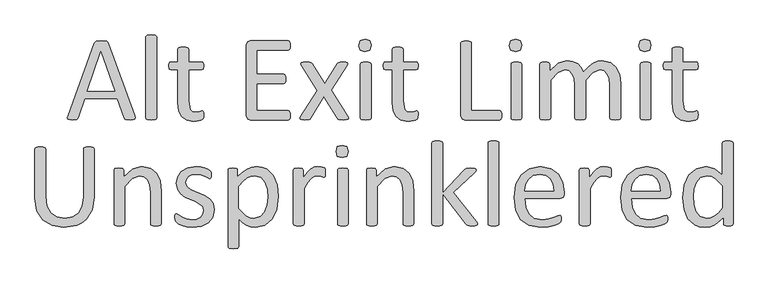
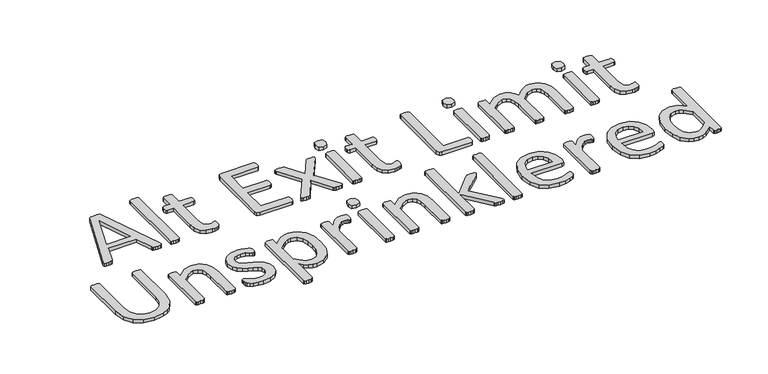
"""IFC4 building model written with IfcOpenShell, lengths in millimetres: proxy geometry, Marker-Alt Exit Limit Unsprinklered : Alt Exit Limit Unsprinklered Line."""

import ifcopenshell
import ifcopenshell.guid

model = None  # the IFC model being written
_history = None  # IfcOwnerHistory: only IFC2X3 demands one
_inside = {}  # id of a spatial element -> (the spatial element, [elements in it])
_under = {}  # id of a project, library or spatial element -> (it, [spatial elements below it])
_declared = {}  # id of a project -> (the project, [libraries it declares])
_typed = {}  # id of a type object -> (the type object, [elements of that type])
_made_of = {}  # id of a material, layer set ... -> (it, [elements and type objects made of it])


def new_model(schema):
    """Start an empty IFC model of exactly this schema.

    Asked for "IFC4X3", IfcOpenShell would pick the latest addendum, in which some entities
    have other attributes; the version numbers below select the first issue.
    IFC2X3 requires an IfcOwnerHistory on every rooted entity: one is made here for all.
    """
    global model, _history
    if schema == "IFC4X3":
        model = ifcopenshell.file(schema_version=(4, 3, 0, 0))
    else:
        model = ifcopenshell.file(schema=schema)
    _inside.clear()
    _under.clear()
    _declared.clear()
    _typed.clear()
    _made_of.clear()
    _history = None
    if model.schema == "IFC2X3":
        org = make("IfcOrganization", Name="unknown")
        user = make(
            "IfcPersonAndOrganization",
            ThePerson=make("IfcPerson", FamilyName="unknown"),
            TheOrganization=org,
        )
        app = make(
            "IfcApplication",
            ApplicationDeveloper=org,
            Version="unknown",
            ApplicationFullName="unknown",
            ApplicationIdentifier="unknown",
        )
        _history = make(
            "IfcOwnerHistory",
            OwningUser=user,
            OwningApplication=app,
            ChangeAction="ADDED",
            CreationDate=0,
        )
    return model


def make(cls, **values):
    """One entity of the class cls with the attributes given. An attribute that is None is left unset."""
    return model.create_entity(
        cls, **{name: value for name, value in values.items() if value is not None}
    )


def rooted(cls, **values):
    """An entity with a GlobalId (a new one), such as an element, a storey or a relation."""
    return make(cls, GlobalId=ifcopenshell.guid.new(), OwnerHistory=_history, **values)


def si_unit(unit_type, name, prefix=None):
    """IfcSIUnit, for example si_unit("LENGTHUNIT", "METRE", prefix="MILLI")."""
    return make("IfcSIUnit", UnitType=unit_type, Prefix=prefix, Name=name)


def assignment(units):
    """IfcUnitAssignment: the units of a project."""
    return None if units is None else make("IfcUnitAssignment", Units=units)


def point(xyz):
    """IfcCartesianPoint."""
    return None if xyz is None else make("IfcCartesianPoint", Coordinates=xyz)


def direction(xyz):
    """IfcDirection."""
    return None if xyz is None else make("IfcDirection", DirectionRatios=xyz)


def frame(location, z_axis=None, x_axis=None):
    """IfcAxis2Placement3D, a coordinate frame: its origin and axes. An axis left out is left unset."""
    return make(
        "IfcAxis2Placement3D",
        Location=point(location),
        Axis=direction(z_axis),
        RefDirection=direction(x_axis),
    )


def origin():
    """The frame at (0, 0, 0) with its axes left unset."""
    return frame((0.0, 0.0, 0.0))


def origin_with_axes():
    """The frame at (0, 0, 0) with the z axis (0, 0, 1) and the x axis (1, 0, 0) written out."""
    return frame((0.0, 0.0, 0.0), z_axis=(0.0, 0.0, 1.0), x_axis=(1.0, 0.0, 0.0))


def place(relative_to, where):
    """IfcLocalPlacement: puts the frame where relative to a parent placement (None: the world)."""
    return make(
        "IfcLocalPlacement", PlacementRelTo=relative_to, RelativePlacement=where
    )


def context(
    kind, dimensions, precision=None, world=None, true_north=None, identifier=None
):
    """IfcGeometricRepresentationContext, for example the 3D "Model" context."""
    return make(
        "IfcGeometricRepresentationContext",
        ContextIdentifier=identifier,
        ContextType=kind,
        CoordinateSpaceDimension=dimensions,
        Precision=precision,
        WorldCoordinateSystem=world,
        TrueNorth=true_north,
    )


def project(units=None, contexts=None):
    """IfcProject with its units and contexts."""
    return rooted(
        "IfcProject",
        Name="project",
        RepresentationContexts=contexts,
        UnitsInContext=assignment(units),
    )


def spatial(cls, under=None, at=None, **own):
    """A site, building, storey or space (cls), placed at a placement, below another one or the project."""
    s = rooted(cls, ObjectPlacement=at, **own)
    if under is not None:
        _under.setdefault(under.id(), (under, []))[1].append(s)
    return s


def polyline(points):
    """IfcPolyline through the points."""
    return make("IfcPolyline", Points=[point(p) for p in points])


def outline(outer, holes=None, kind="AREA"):
    """IfcArbitraryClosedProfileDef: a profile drawn as a closed curve; with holes, ...WithVoids."""
    if holes is None:
        return make("IfcArbitraryClosedProfileDef", ProfileType=kind, OuterCurve=outer)
    return make(
        "IfcArbitraryProfileDefWithVoids",
        ProfileType=kind,
        OuterCurve=outer,
        InnerCurves=holes,
    )


def extrude(swept, where, along, depth):
    """IfcExtrudedAreaSolid: the profile swept, set in the frame where, extruded along a direction by depth."""
    return make(
        "IfcExtrudedAreaSolid",
        SweptArea=swept,
        Position=where,
        ExtrudedDirection=direction(along),
        Depth=depth,
    )


def shape(context_of_items, identifier, shape_type, items):
    """IfcShapeRepresentation: the items that make up one representation, for example the "Body"."""
    return make(
        "IfcShapeRepresentation",
        ContextOfItems=context_of_items,
        RepresentationIdentifier=identifier,
        RepresentationType=shape_type,
        Items=items,
    )


def source(mapping_origin, context_of_items, identifier, shape_type, items):
    """IfcRepresentationMap: a shape defined once, which mapped items show again and again."""
    return make(
        "IfcRepresentationMap",
        MappingOrigin=mapping_origin,
        MappedRepresentation=shape(context_of_items, identifier, shape_type, items),
    )


def transform(
    local_origin,
    x_axis=None,
    y_axis=None,
    z_axis=None,
    scale=None,
    scale2=None,
    scale3=None,
    uniform=True,
):
    """IfcCartesianTransformationOperator3D, or its non-uniform kind. x_axis, y_axis, z_axis: its Axis1, 2, 3."""
    if uniform:
        return make(
            "IfcCartesianTransformationOperator3D",
            Axis1=direction(x_axis),
            Axis2=direction(y_axis),
            LocalOrigin=point(local_origin),
            Scale=scale,
            Axis3=direction(z_axis),
        )
    return make(
        "IfcCartesianTransformationOperator3DnonUniform",
        Axis1=direction(x_axis),
        Axis2=direction(y_axis),
        LocalOrigin=point(local_origin),
        Scale=scale,
        Axis3=direction(z_axis),
        Scale2=scale2,
        Scale3=scale3,
    )


def mapped(mapping_source, mapping_target):
    """IfcMappedItem: shows the shape of a source again, moved by a transform."""
    return make(
        "IfcMappedItem", MappingSource=mapping_source, MappingTarget=mapping_target
    )


def made_of(thing, what):
    """Note that an element or type object is made of a material, layer set ...; save() writes the relation."""
    if what is not None:
        _made_of.setdefault(what.id(), (what, []))[1].append(thing)
    return thing


def element(
    cls,
    number,
    at=None,
    inside=None,
    cuts=None,
    type_object=None,
    material=None,
    context=None,
    identifier="Body",
    shape_type=None,
    held_by="IfcProductDefinitionShape",
    body=None,
    shapes=None,
    **own,
):
    """One element of the class cls, such as IfcWall. Its Tag is "e" and its number.

    at: its placement. inside: the storey or other place that contains it. cuts: it is an
    opening in that element (IfcRelVoidsElement). A single representation is given by context,
    identifier, shape_type and body (its items); several are given by shapes. held_by: the class
    of the entity that holds the representations. save() writes the other relations.
    """
    e = rooted(cls, Tag="e%d" % number, ObjectPlacement=at, **own)
    if body is not None:
        shapes = [shape(context, identifier, shape_type, body)]
    if shapes is not None:
        e.Representation = make(held_by, Representations=shapes)
    if inside is not None:
        _inside.setdefault(inside.id(), (inside, []))[1].append(e)
    if cuts is not None:
        rooted(
            "IfcRelVoidsElement", RelatingBuildingElement=cuts, RelatedOpeningElement=e
        )
    if type_object is not None:
        _typed.setdefault(type_object.id(), (type_object, []))[1].append(e)
    return made_of(e, material)


def aggregate(whole, parts):
    """IfcRelAggregates: a whole, such as a stair, and the parts it consists of."""
    return rooted("IfcRelAggregates", RelatingObject=whole, RelatedObjects=parts)


def save(model, path):
    """Write the relations noted so far, then the file.

    IfcRelAggregates (storeys below a building ...), IfcRelContainedInSpatialStructure (elements
    in a storey), IfcRelDefinesByType, IfcRelAssociatesMaterial and IfcRelDeclares: one each for
    every whole, place, type object, material and project.
    """
    for whole, parts in _under.values():
        aggregate(whole, parts)
    for where, things in _inside.values():
        rooted(
            "IfcRelContainedInSpatialStructure",
            RelatedElements=things,
            RelatingStructure=where,
        )
    for kind, things in _typed.values():
        rooted("IfcRelDefinesByType", RelatedObjects=things, RelatingType=kind)
    for what, things in _made_of.values():
        rooted("IfcRelAssociatesMaterial", RelatedObjects=things, RelatingMaterial=what)
    for by, libraries in _declared.values():
        rooted("IfcRelDeclares", RelatingContext=by, RelatedDefinitions=libraries)
    model.write(path)


def generic_models_76fe117e(model_context):
    return source(origin(), model_context, "Body", "SweptSolid", [
        extrude(outline(polyline([(3919.5878214, 45.1759206), (3920.8845935, 39.6872573), (3919.7386089, 36.4604059), (3915.6371902, 35.0430038), (3908.0073451, 34.7414289), (3900.3171851, 34.9826888), (3896.004664, 35.7667836), (3893.8634821, 37.2445006), (3892.5063951, 39.5666274), (3875.3769405, 88.7836516), (3792.2025821, 88.7836516), (3775.8572223, 40.2300921), (3774.5906077, 37.8174929), (3772.3589535, 36.0683585), (3768.1972198, 35.0430038), (3761.140367, 34.7414289), (3753.8120969, 35.1334763), (3749.8011507, 36.6111933), (3748.715481, 39.8078873), (3750.0424106, 45.2965505), (3817.1126692, 229.9810215), (3818.7110161, 232.7253531), (3821.6664502, 234.3840151), (3826.6122786, 235.2284248), (3834.2421237, 235.4696848), (3842.4449611, 235.2284248), (3847.7225219, 234.3840151), (3850.7985859, 232.6650382), (3852.5175628, 229.8603916), (3919.5878214, 45.1759206)]), holes=[polyline([(3833.5183439, 208.4485734), (3798.897545, 108.0844455), (3868.4407178, 108.0844455), (3833.5183439, 208.4485734)])]), origin_with_axes(), (0.0, 0.0, 1.0), 10.0),
        extrude(outline(polyline([(3974.8363438, 39.5063124), (3974.172879, 37.455603), (3972.0316972, 35.977886), (3967.960436, 35.0430038), (3961.2654731, 34.7414289), (3954.6911402, 35.0430038), (3950.5294065, 35.977886), (3948.3882247, 37.455603), (3947.8152324, 39.5063124), (3947.8152324, 245.9644914), (3948.3882247, 248.1358307), (3950.5294065, 249.6738627), (3954.6911402, 250.6087449), (3961.2654731, 250.9103198), (3967.960436, 250.6087449), (3972.0316972, 249.6738627), (3974.172879, 248.1358307), (3974.8363438, 245.9644914), (3974.8363438, 39.5063124)])), origin_with_axes(), (0.0, 0.0, 1.0), 10.0),
        extrude(outline(polyline([(4094.5012655, 48.6138745), (4093.8981157, 41.0745019), (4092.0585088, 36.9730832), (4088.379295, 34.500169), (4082.8001593, 32.6002471), (4076.1353539, 31.36379), (4069.1086586, 30.8812701), (4050.742747, 33.8065467), (4038.2273885, 42.6426914), (4031.1102208, 57.6309641), (4028.8785665, 79.0729397), (4028.8785665, 162.1266682), (4010.5428124, 162.1266682), (4007.014386, 164.38848), (4005.7176139, 171.7167501), (4006.0795038, 176.2102162), (4007.014386, 179.2561227), (4008.552418, 180.9449422), (4010.6634423, 181.427462), (4028.8785665, 181.427462), (4028.8785665, 215.0229063), (4029.4515588, 217.0434582), (4031.5927406, 218.7021201), (4035.7544743, 219.7274748), (4042.3288072, 220.0290497), (4049.0237701, 219.7274748), (4053.0950313, 218.7021201), (4055.2362131, 217.0434582), (4055.8996779, 215.0229063), (4055.8996779, 181.427462), (4089.6760671, 181.427462), (4091.6966189, 180.9449422), (4093.2346509, 179.2561227), (4094.1996906, 176.2102162), (4094.5012655, 171.7167501), (4093.174336, 164.38848), (4089.6760671, 162.1266682), (4055.8996779, 162.1266682), (4055.8996779, 83.4759333), (4059.9106241, 61.4911229), (4065.5123779, 55.9044478), (4074.295747, 54.0422227), (4080.2970876, 54.735845), (4084.9714986, 56.1834045), (4088.4999249, 57.6611216), (4091.1236266, 58.3849013), (4093.5362258, 56.5151369), (4094.1996906, 53.4993879), (4094.5012655, 48.6138745)])), origin_with_axes(), (0.0, 0.0, 1.0), 10.0),
        extrude(outline(polyline([(4314.5303152, 46.2615902), (4314.2287403, 41.1348169), (4313.1430707, 37.4857605), (4311.3336213, 35.3747362), (4309.101967, 34.7414289), (4212.5376828, 34.7414289), (4205.782405, 37.1540281), (4202.585711, 45.5981254), (4202.585711, 224.6129882), (4205.8125625, 233.0570855), (4212.6583128, 235.4696848), (4309.1622819, 235.4696848), (4311.4542512, 234.8363775), (4313.1129132, 232.7253531), (4314.1382679, 229.0762968), (4314.5303152, 223.6479485), (4314.1382679, 218.5513327), (4313.1129132, 214.9625913), (4311.4542512, 212.9420395), (4309.1622819, 212.3087322), (4229.6068224, 212.3087322), (4229.6068224, 150.5461919), (4297.6421206, 150.5461919), (4299.8737749, 149.7922546), (4301.6229094, 147.7113878), (4302.648264, 144.0623315), (4302.9498389, 138.5435107), (4302.648264, 133.3865799), (4301.6229094, 129.888311), (4299.8737749, 127.9582316), (4297.6421206, 127.3852393), (4229.6068224, 127.3852393), (4229.6068224, 57.9023815), (4309.101967, 57.9023815), (4311.3637787, 57.2690742), (4313.1430707, 55.2485223), (4314.2287403, 51.659781), (4314.5303152, 46.2615902)])), origin_with_axes(), (0.0, 0.0, 1.0), 10.0),
        extrude(outline(polyline([(4460.9750884, 42.3411165), (4462.1813881, 38.7825326), (4460.7338285, 36.4302484), (4456.2705199, 35.1334763), (4448.4295725, 34.7414289), (4441.1013023, 34.9826888), (4436.7887812, 35.7366261), (4434.315867, 37.0937131), (4432.8079924, 39.0237925), (4399.4538081, 93.4279051), (4366.2202537, 39.0237925), (4364.7425367, 37.0937131), (4362.2696225, 35.7366261), (4358.0475738, 34.9826888), (4351.0811936, 34.7414289), (4343.7227659, 35.1334763), (4339.5610322, 36.4302484), (4338.3245751, 38.7825326), (4339.8022922, 42.3411165), (4383.0481333, 109.2907451), (4342.0942614, 173.8277745), (4340.7974893, 177.3863583), (4342.1847339, 179.829115), (4346.6782, 181.1258871), (4354.6397774, 181.427462), (4361.8172601, 181.1862021), (4366.0694663, 180.4925798), (4368.391593, 179.2862802), (4369.7788376, 177.4466733), (4401.4442025, 126.3598846), (4433.5920872, 177.4466733), (4434.9793317, 179.1354928), (4437.0903561, 180.4322649), (4440.7997274, 181.1862021), (4447.3439028, 181.427462), (4454.7023304, 181.1258871), (4458.9243791, 179.9799025), (4460.1608362, 177.6276182), (4458.6228042, 173.8277745), (4417.9705072, 110.0748398), (4460.9750884, 42.3411165)])), origin_with_axes(), (0.0, 0.0, 1.0), 10.0),
        extrude(outline(polyline([(4519.1187299, 224.0701534), (4515.8014059, 211.7357399), (4503.4971499, 208.4485734), (4491.4944687, 211.6452674), (4488.2374597, 223.7082635), (4491.5547837, 236.0426771), (4503.8590397, 239.3298435), (4515.8617209, 236.1331496), (4519.1187299, 224.0701534)])), origin_with_axes(), (0.0, 0.0, 1.0), 10.0),
        extrude(outline(polyline([(4519.1187299, 39.4459974), (4518.4552651, 37.3952881), (4516.3140833, 35.9477285), (4512.2428221, 35.0430038), (4505.5478592, 34.7414289), (4498.9735263, 35.0430038), (4494.8117926, 35.9477285), (4492.6706108, 37.3952881), (4492.0976185, 39.4459974), (4492.0976185, 176.7228935), (4492.6706108, 178.6831304), (4494.8117926, 180.2211624), (4498.9735263, 181.1258871), (4505.5478592, 181.427462), (4512.2428221, 181.1258871), (4516.3140833, 180.2211624), (4518.4552651, 178.6831304), (4519.1187299, 176.7228935), (4519.1187299, 39.4459974)])), origin_with_axes(), (0.0, 0.0, 1.0), 10.0),
        extrude(outline(polyline([(4638.7836516, 48.6138745), (4638.1805018, 41.0745019), (4636.3408949, 36.9730832), (4632.6616811, 34.500169), (4627.0825454, 32.6002471), (4620.41774, 31.36379), (4613.3910447, 30.8812701), (4595.0251331, 33.8065467), (4582.5097746, 42.6426914), (4575.3926069, 57.6309641), (4573.1609526, 79.0729397), (4573.1609526, 162.1266682), (4554.8251985, 162.1266682), (4551.2967721, 164.38848), (4550.0, 171.7167501), (4550.3618899, 176.2102162), (4551.2967721, 179.2561227), (4552.8348041, 180.9449422), (4554.9458284, 181.427462), (4573.1609526, 181.427462), (4573.1609526, 215.0229063), (4573.7339449, 217.0434582), (4575.8751267, 218.7021201), (4580.0368604, 219.7274748), (4586.6111933, 220.0290497), (4593.3061562, 219.7274748), (4597.3774174, 218.7021201), (4599.5185992, 217.0434582), (4600.182064, 215.0229063), (4600.182064, 181.427462), (4633.9584532, 181.427462), (4635.979005, 180.9449422), (4637.517037, 179.2561227), (4638.4820767, 176.2102162), (4638.7836516, 171.7167501), (4637.4567221, 164.38848), (4633.9584532, 162.1266682), (4600.182064, 162.1266682), (4600.182064, 83.4759333), (4604.1930102, 61.4911229), (4609.794764, 55.9044478), (4618.5781331, 54.0422227), (4624.5794737, 54.735845), (4629.2538847, 56.1834045), (4632.7823111, 57.6611216), (4635.4060127, 58.3849013), (4637.8186119, 56.5151369), (4638.4820767, 53.4993879), (4638.7836516, 48.6138745)])), origin_with_axes(), (0.0, 0.0, 1.0), 10.0),
        extrude(outline(polyline([(4851.0923838, 46.3822202), (4850.7908089, 41.1951318), (4849.7956117, 37.6063905), (4848.0766348, 35.4350512), (4845.6640355, 34.7414289), (4756.8200689, 34.7414289), (4750.0647911, 37.1238706), (4746.8680971, 45.5378105), (4746.8680971, 230.5238563), (4747.5014044, 232.6951957), (4749.7029012, 234.1427552), (4753.9249498, 235.0776374), (4760.3786528, 235.4696848), (4766.8926707, 235.0776374), (4771.0544044, 234.1427552), (4773.2559012, 232.6951957), (4773.8892085, 230.5238563), (4773.8892085, 57.9023815), (4845.6640355, 57.9023815), (4848.0766348, 57.2087592), (4849.7956117, 55.1882074), (4850.7908089, 51.6899385), (4851.0923838, 46.3822202)])), origin_with_axes(), (0.0, 0.0, 1.0), 10.0),
        extrude(outline(polyline([(4901.2744478, 224.0701534), (4897.9571238, 211.7357399), (4885.6528678, 208.4485734), (4873.6501866, 211.6452674), (4870.3931776, 223.7082635), (4873.7105016, 236.0426771), (4886.0147576, 239.3298435), (4898.0174388, 236.1331496), (4901.2744478, 224.0701534)])), origin_with_axes(), (0.0, 0.0, 1.0), 10.0),
        extrude(outline(polyline([(4901.2744478, 39.4459974), (4900.610983, 37.3952881), (4898.4698012, 35.9477285), (4894.39854, 35.0430038), (4887.7035771, 34.7414289), (4881.1292442, 35.0430038), (4876.9675105, 35.9477285), (4874.8263287, 37.3952881), (4874.2533364, 39.4459974), (4874.2533364, 176.7228935), (4874.8263287, 178.6831304), (4876.9675105, 180.2211624), (4881.1292442, 181.1258871), (4887.7035771, 181.427462), (4894.39854, 181.1258871), (4898.4698012, 180.2211624), (4900.610983, 178.6831304), (4901.2744478, 176.7228935), (4901.2744478, 39.4459974)])), origin_with_axes(), (0.0, 0.0, 1.0), 10.0),
        extrude(outline(polyline([(5152.1847676, 39.5063124), (5151.5213028, 37.455603), (5149.4102785, 35.977886), (5145.3390173, 35.0430038), (5138.8551569, 34.7414289), (5132.160194, 35.0430038), (5128.0286178, 35.9477285), (5125.827121, 37.3952881), (5125.1636562, 39.5063124), (5125.1636562, 123.1028757), (5123.6859392, 139.0260306), (5118.9813707, 151.4207591), (5110.7182184, 159.3823366), (5098.9266396, 162.1266682), (5082.0686025, 155.4015478), (5063.401116, 135.6483917), (5063.401116, 39.5063124), (5062.7376512, 37.3952881), (5060.5361544, 35.9477285), (5056.3744207, 35.0430038), (5049.8302453, 34.7414289), (5043.3463849, 35.0430038), (5039.0941787, 35.9477285), (5036.9529969, 37.3952881), (5036.3800046, 39.5063124), (5036.3800046, 123.1028757), (5034.7515001, 139.0260306), (5029.8961442, 151.4207591), (5021.7536218, 159.3823366), (5010.082673, 162.1266682), (4993.1643209, 155.4015478), (4974.6174643, 135.6483917), (4974.6174643, 39.5063124), (4973.9539995, 37.3952881), (4971.8128177, 35.9477285), (4967.7415565, 35.0430038), (4961.0465937, 34.7414289), (4954.4722608, 35.0430038), (4950.3105271, 35.9477285), (4948.1693453, 37.3952881), (4947.596353, 39.4459974), (4947.596353, 176.7228935), (4948.0788728, 178.7736029), (4950.0391097, 180.2814774), (4953.808796, 181.1862021), (4959.900609, 181.427462), (4965.8717921, 181.1862021), (4969.551006, 180.2814774), (4971.4509278, 178.7736029), (4972.0239202, 176.7228935), (4972.0239202, 158.5680843), (4994.3706205, 178.8640754), (5016.234801, 185.2876208), (5031.4341762, 183.1765965), (5043.3162274, 177.2657284), (5052.0920571, 168.1883238), (5058.1537126, 156.396745), (5071.1817485, 169.8771432), (5083.0637997, 178.8037604), (5094.1919136, 183.7495888), (5105.0787677, 185.2876208), (5127.3349955, 180.5830523), (5141.9010634, 168.0073788), (5149.8324834, 149.5811522), (5152.1847676, 127.2646093), (5152.1847676, 39.5063124)])), origin_with_axes(), (0.0, 0.0, 1.0), 10.0),
        extrude(outline(polyline([(5229.3879429, 224.0701534), (5226.070619, 211.7357399), (5213.7663629, 208.4485734), (5201.7636818, 211.6452674), (5198.5066728, 223.7082635), (5201.8239967, 236.0426771), (5214.1282528, 239.3298435), (5226.130934, 236.1331496), (5229.3879429, 224.0701534)])), origin_with_axes(), (0.0, 0.0, 1.0), 10.0),
        extrude(outline(polyline([(5229.3879429, 39.4459974), (5228.7244781, 37.3952881), (5226.5832963, 35.9477285), (5222.5120351, 35.0430038), (5215.8170723, 34.7414289), (5209.2427394, 35.0430038), (5205.0810057, 35.9477285), (5202.9398239, 37.3952881), (5202.3668316, 39.4459974), (5202.3668316, 176.7228935), (5202.9398239, 178.6831304), (5205.0810057, 180.2211624), (5209.2427394, 181.1258871), (5215.8170723, 181.427462), (5222.5120351, 181.1258871), (5226.5832963, 180.2211624), (5228.7244781, 178.6831304), (5229.3879429, 176.7228935), (5229.3879429, 39.4459974)])), origin_with_axes(), (0.0, 0.0, 1.0), 10.0),
        extrude(outline(polyline([(5349.0528647, 48.6138745), (5348.4497149, 41.0745019), (5346.610108, 36.9730832), (5342.9308942, 34.500169), (5337.3517584, 32.6002471), (5330.6869531, 31.36379), (5323.6602578, 30.8812701), (5305.2943462, 33.8065467), (5292.7789877, 42.6426914), (5285.66182, 57.6309641), (5283.4301657, 79.0729397), (5283.4301657, 162.1266682), (5265.0944115, 162.1266682), (5261.5659852, 164.38848), (5260.2692131, 171.7167501), (5260.631103, 176.2102162), (5261.5659852, 179.2561227), (5263.1040172, 180.9449422), (5265.2150415, 181.427462), (5283.4301657, 181.427462), (5283.4301657, 215.0229063), (5284.003158, 217.0434582), (5286.1443398, 218.7021201), (5290.3060735, 219.7274748), (5296.8804064, 220.0290497), (5303.5753692, 219.7274748), (5307.6466304, 218.7021201), (5309.7878122, 217.0434582), (5310.451277, 215.0229063), (5310.451277, 181.427462), (5344.2276662, 181.427462), (5346.2482181, 180.9449422), (5347.7862501, 179.2561227), (5348.7512898, 176.2102162), (5349.0528647, 171.7167501), (5347.7259351, 164.38848), (5344.2276662, 162.1266682), (5310.451277, 162.1266682), (5310.451277, 83.4759333), (5314.4622233, 61.4911229), (5320.0639771, 55.9044478), (5328.8473462, 54.0422227), (5334.8486867, 54.735845), (5339.5230977, 56.1834045), (5343.0515241, 57.6611216), (5345.6752258, 58.3849013), (5348.087825, 56.5151369), (5348.7512898, 53.4993879), (5349.0528647, 48.6138745)])), origin_with_axes(), (0.0, 0.0, 1.0), 10.0),
        extrude(outline(polyline([(3816.5698343, -161.5190423), (3811.2319585, -194.1494469), (3796.0325834, -218.4262266), (3785.0854144, -227.1492807), (3771.9669061, -233.4748143), (3739.6682339, -238.6015877), (3709.5710585, -233.8065467), (3686.2593185, -219.6023687), (3671.2710458, -196.0795263), (3666.0236424, -163.5094367), (3666.0236424, -38.9590015), (3666.6569497, -36.8178196), (3668.8584465, -35.3401026), (3672.9598652, -34.4052204), (3679.5945131, -34.013173), (3686.0783735, -34.4052204), (3690.2702647, -35.3401026), (3692.4114465, -36.8178196), (3693.0447538, -38.9590015), (3693.0447538, -160.0111678), (3696.3922352, -184.318105), (3706.0727896, -201.598347), (3721.3324798, -211.9725237), (3741.3570534, -215.4406351), (3761.7435168, -212.0328387), (3776.822262, -201.8094494), (3786.2615565, -184.9514123), (3789.548723, -161.3984123), (3789.548723, -38.9590015), (3790.1820303, -36.8178196), (3792.3835271, -35.3401026), (3796.5754182, -34.4052204), (3803.1195936, -34.013173), (3809.5431391, -34.4052204), (3813.6445578, -35.3401026), (3815.8460546, -36.8178196), (3816.5698343, -38.9590015), (3816.5698343, -161.5190423)])), origin_with_axes(), (0.0, 0.0, 1.0), 10.0),
        extrude(outline(polyline([(3986.4168201, -229.9765454), (3985.7533553, -232.0272548), (3983.6121735, -233.5049718), (3979.5409123, -234.439854), (3972.9665794, -234.7414289), (3966.2716165, -234.439854), (3962.2003553, -233.5351293), (3960.0591735, -232.0875697), (3959.3957087, -229.9765454), (3959.3957087, -149.3957312), (3957.6164168, -130.4568272), (3952.4594859, -118.0620987), (3943.6836562, -110.1005212), (3931.2286127, -107.3561896), (3912.923016, -114.08131), (3893.7730097, -133.8344661), (3893.7730097, -229.9765454), (3893.1095449, -232.0875697), (3890.9683631, -233.5351293), (3886.8971019, -234.439854), (3880.202139, -234.7414289), (3873.6278061, -234.439854), (3869.4660724, -233.5351293), (3867.3248906, -232.0875697), (3866.7518983, -230.0368604), (3866.7518983, -92.7599643), (3867.2344181, -90.7092549), (3869.194655, -89.2013804), (3872.9643413, -88.2966557), (3879.0561544, -88.0553958), (3885.0273375, -88.2966557), (3888.7065513, -89.2013804), (3890.6064732, -90.7092549), (3891.1794655, -92.7599643), (3891.1794655, -110.9147735), (3914.2499456, -90.6187824), (3937.4410557, -84.195237), (3960.4813784, -88.8998055), (3975.6204385, -101.475479), (3983.9137484, -119.9017056), (3986.4168201, -145.2943125), (3986.4168201, -229.9765454)])), origin_with_axes(), (0.0, 0.0, 1.0), 10.0),
        extrude(outline(polyline([(4121.5223769, -193.4859821), (4117.5114307, -212.6963034), (4106.0817418, -226.9004814), (4088.43961, -235.6461536), (4065.9119647, -238.6015877), (4051.4665268, -237.2143431), (4039.1924282, -233.6859167), (4029.9943936, -229.2226082), (4024.4755729, -225.030717), (4021.9423437, -220.5975659), (4021.158249, -213.5708707), (4021.4598239, -209.0170896), (4022.2439186, -206.0314981), (4023.5708482, -204.3728361), (4025.5009276, -203.8601588), (4030.507071, -206.272758), (4038.7099084, -211.5804763), (4050.2602272, -216.8881946), (4065.5500748, -219.3007938), (4077.311496, -217.8230768), (4086.4492156, -213.4502407), (4092.4203987, -206.0918131), (4094.5012655, -195.5366914), (4091.515674, -185.5545621), (4083.584254, -178.3469219), (4072.5164551, -172.7979437), (4059.8503091, -167.7314853), (4047.0936907, -161.7301447), (4035.9354192, -153.5273073), (4028.0039993, -141.9769885), (4025.0184077, -125.8728887), (4028.2151017, -110.0402062), (4037.8051836, -96.7709105), (4053.7886535, -87.6331909), (4076.2258264, -84.195237), (4087.4444128, -85.2205917), (4097.5773295, -87.8141358), (4105.2976471, -91.1917748), (4110.1228455, -94.3884687), (4112.2941848, -96.680438), (4113.0782796, -98.6708324), (4113.5607994, -101.415164), (4113.8020594, -105.4261102), (4113.5607994, -109.7989463), (4112.7767047, -112.8448528), (4111.4196176, -114.5638298), (4109.6403257, -115.0765071), (4105.478592, -113.2369002), (4098.4518968, -109.286269), (4088.31898, -105.3356377), (4075.0195268, -103.4960308), (4063.1977905, -105.0340628), (4054.8140082, -109.4068989), (4049.8681798, -116.1018618), (4048.1793603, -124.4856441), (4051.3760543, -134.7090334), (4059.7296791, -141.9769885), (4071.4609429, -147.5862817), (4084.8508686, -152.7130551), (4098.3312668, -158.6540807), (4110.1228455, -166.6156582), (4118.3859979, -177.8644021), (4121.5223769, -193.4859821)])), origin_with_axes(), (0.0, 0.0, 1.0), 10.0),
        extrude(outline(polyline([(4283.6490451, -159.287388), (4279.7888863, -192.3701549), (4268.44967, -217.280242), (4249.9028134, -233.0526094), (4224.600679, -238.6015877), (4213.41225, -237.3651306), (4203.3396483, -233.4446568), (4193.5686214, -226.7195365), (4183.2849172, -217.1897695), (4183.2849172, -287.637667), (4182.6214524, -289.8391638), (4180.4802706, -291.4073533), (4176.4090094, -292.3422355), (4169.7140465, -292.6438104), (4163.1397136, -292.3422355), (4158.9779799, -291.4073533), (4156.8367981, -289.8391638), (4156.2638058, -287.697982), (4156.2638058, -92.8805942), (4156.7463256, -90.6187824), (4158.7065625, -89.1410654), (4162.4762488, -88.2966557), (4168.085542, -88.0553958), (4173.7249927, -88.2664982), (4177.4042065, -89.0505929), (4179.4549159, -90.4378375), (4180.0279082, -92.5790193), (4180.0279082, -110.1306787), (4192.0004319, -98.7311474), (4203.6110657, -90.6790974), (4215.6137468, -85.8237415), (4228.5814677, -84.195237), (4242.3332833, -85.6804934), (4253.9137596, -90.1362626), (4270.9828991, -106.3609924), (4280.6031386, -130.3060398), (4283.6490451, -159.287388)]), holes=[polyline([(4256.6279337, -162.2428221), (4255.0597442, -141.7960436), (4249.6615535, -124.2443842), (4239.3778492, -111.9702856), (4223.3340644, -107.3561896), (4213.8646124, -108.7735916), (4204.4253179, -113.2972152), (4194.3828736, -121.4397376), (4183.2849172, -133.8344661), (4183.2849172, -189.7464533), (4202.6158685, -208.8361447), (4211.9873086, -213.7895125), (4221.8261899, -215.4406351), (4237.8096597, -210.826539), (4248.6060413, -198.5524405), (4254.6676969, -181.3928284), (4256.6279337, -162.2428221)])]), origin_with_axes(), (0.0, 0.0, 1.0), 10.0),
        extrude(outline(polyline([(4403.3139669, -99.6358721), (4403.1631794, -105.1245353), (4402.5600296, -108.6831192), (4401.4442025, -110.703671), (4399.5744381, -111.3972933), (4396.6491615, -110.703671), (4392.7588452, -109.3164265), (4387.9034893, -107.9894969), (4382.0830936, -107.3561896), (4374.724666, -109.0148516), (4367.1551359, -114.4431998), (4358.8618261, -124.4554866), (4349.2717441, -139.7453343), (4349.2717441, -230.0368604), (4348.6082793, -232.0875697), (4346.4670975, -233.5351293), (4342.3958363, -234.439854), (4335.7008735, -234.7414289), (4329.1265406, -234.439854), (4324.9648069, -233.5351293), (4322.8236251, -232.0875697), (4322.2506328, -230.0368604), (4322.2506328, -92.7599643), (4322.7331526, -90.7092549), (4324.6933895, -89.2013804), (4328.4630758, -88.2966557), (4334.5548888, -88.0553958), (4340.5260719, -88.2966557), (4344.2052858, -89.2013804), (4346.1052076, -90.7092549), (4346.6782, -92.7599643), (4346.6782, -112.7845379), (4357.1126916, -98.4898874), (4366.3710412, -89.7743727), (4374.9960834, -85.4015366), (4383.6512831, -84.195237), (4388.0542767, -84.4063394), (4393.2413651, -85.2205917), (4398.1268785, -86.5776787), (4401.2029425, -88.0553958), (4402.4092422, -89.4426403), (4402.952077, -91.1616173), (4403.2536519, -94.2075238), (4403.3139669, -99.6358721)])), origin_with_axes(), (0.0, 0.0, 1.0), 10.0),
        extrude(outline(polyline([(4461.2163484, -230.0368604), (4460.5528836, -232.0875697), (4458.4117018, -233.5351293), (4454.3404406, -234.439854), (4447.6454777, -234.7414289), (4441.0711448, -234.439854), (4436.9094111, -233.5351293), (4434.7682293, -232.0875697), (4434.195237, -230.0368604), (4434.195237, -92.7599643), (4434.7682293, -90.7997274), (4436.9094111, -89.2616954), (4441.0711448, -88.3569707), (4447.6454777, -88.0553958), (4454.3404406, -88.3569707), (4458.4117018, -89.2616954), (4460.5528836, -90.7997274), (4461.2163484, -92.7599643), (4461.2163484, -230.0368604)])), origin_with_axes(), (0.0, 0.0, 1.0), 10.0),
        extrude(outline(polyline([(4461.2163484, -45.4127044), (4457.8990244, -57.7471179), (4445.5947684, -61.0342844), (4433.5920872, -57.8375904), (4430.3350782, -45.7745943), (4433.6524022, -33.4401807), (4445.9566582, -30.1530143), (4457.9593394, -33.3497082), (4461.2163484, -45.4127044)])), origin_with_axes(), (0.0, 0.0, 1.0), 10.0),
        extrude(outline(polyline([(4627.2031753, -229.9765454), (4626.5397105, -232.0272548), (4624.3985287, -233.5049718), (4620.3272675, -234.439854), (4613.7529346, -234.7414289), (4607.0579718, -234.439854), (4602.9867106, -233.5351293), (4600.8455288, -232.0875697), (4600.182064, -229.9765454), (4600.182064, -149.3957312), (4598.402772, -130.4568272), (4593.2458412, -118.0620987), (4584.4700115, -110.1005212), (4572.014968, -107.3561896), (4553.7093713, -114.08131), (4534.5593649, -133.8344661), (4534.5593649, -229.9765454), (4533.8959001, -232.0875697), (4531.7547183, -233.5351293), (4527.6834571, -234.439854), (4520.9884943, -234.7414289), (4514.4141614, -234.439854), (4510.2524277, -233.5351293), (4508.1112459, -232.0875697), (4507.5382536, -230.0368604), (4507.5382536, -92.7599643), (4508.0207734, -90.7092549), (4509.9810103, -89.2013804), (4513.7506966, -88.2966557), (4519.8425096, -88.0553958), (4525.8136927, -88.2966557), (4529.4929066, -89.2013804), (4531.3928284, -90.7092549), (4531.9658208, -92.7599643), (4531.9658208, -110.9147735), (4555.0363009, -90.6187824), (4578.227411, -84.195237), (4601.2677336, -88.8998055), (4616.4067938, -101.475479), (4624.7001036, -119.9017056), (4627.2031753, -145.2943125), (4627.2031753, -229.9765454)])), origin_with_axes(), (0.0, 0.0, 1.0), 10.0),
        extrude(outline(polyline([(4789.3298435, -229.8559155), (4788.6965362, -231.9970973), (4786.6156694, -233.5351293), (4782.5444082, -234.439854), (4775.8796028, -234.7414289), (4769.003695, -234.500169), (4764.4197565, -233.7462317), (4761.4040075, -232.2383572), (4759.2929831, -229.8559155), (4700.5461919, -153.9193547), (4700.5461919, -230.0368604), (4699.8827271, -232.0875697), (4697.7415453, -233.5351293), (4693.6702841, -234.439854), (4686.9753212, -234.7414289), (4680.4009883, -234.439854), (4676.2392547, -233.5049718), (4674.0980729, -232.0272548), (4673.5250805, -229.9765454), (4673.5250805, -23.5183664), (4674.0980729, -21.3470271), (4676.2392547, -19.8089951), (4680.4009883, -18.8741129), (4686.9753212, -18.572538), (4693.6702841, -18.8741129), (4697.7415453, -19.8089951), (4699.8827271, -21.3771846), (4700.5461919, -23.5786814), (4700.5461919, -150.4210858), (4754.2265247, -93.3631141), (4756.9105414, -90.8600424), (4760.2881803, -89.2013804), (4764.9324338, -88.2966557), (4771.4162943, -88.0553958), (4778.0509421, -88.2966557), (4782.3634633, -89.0505929), (4784.745905, -90.40768), (4785.4696848, -92.6393343), (4784.4141726, -96.2883906), (4780.8857462, -100.5405968), (4727.5673033, -150.2401409), (4785.5299997, -222.6784328), (4788.4552763, -226.8703239), (4789.3298435, -229.8559155)])), origin_with_axes(), (0.0, 0.0, 1.0), 10.0),
        extrude(outline(polyline([(4843.3720663, -229.9765454), (4842.7086015, -232.0272548), (4840.5674197, -233.5049718), (4836.4961585, -234.439854), (4829.8011956, -234.7414289), (4823.2268627, -234.439854), (4819.065129, -233.5049718), (4816.9239472, -232.0272548), (4816.3509549, -229.9765454), (4816.3509549, -23.5183664), (4816.9239472, -21.3470271), (4819.065129, -19.8089951), (4823.2268627, -18.8741129), (4829.8011956, -18.572538), (4836.4961585, -18.8741129), (4840.5674197, -19.8089951), (4842.7086015, -21.3470271), (4843.3720663, -23.5183664), (4843.3720663, -229.9765454)])), origin_with_axes(), (0.0, 0.0, 1.0), 10.0),
        extrude(outline(polyline([(5009.3588932, -154.2209296), (5006.3733017, -162.7253419), (4999.5275514, -165.2585711), (4908.9947653, -165.2585711), (4911.2565771, -187.575114), (4918.7657922, -204.5839385), (4932.4572928, -215.50095), (4953.0850162, -219.3007938), (4970.2144707, -217.5215019), (4983.2425066, -213.5105557), (4992.2595962, -209.4996095), (4997.597472, -207.7203175), (4999.4672364, -208.2329949), (5000.7640085, -209.7408694), (5001.4274733, -212.545516), (5001.6385757, -216.9485096), (5001.4877882, -220.1753611), (5001.0957409, -222.6181178), (5000.3418036, -224.5783546), (4998.9847165, -226.2370166), (4994.0690456, -229.1622932), (4983.4837665, -233.3240269), (4968.4050213, -236.9730832), (4950.1295822, -238.6015877), (4920.6657141, -233.7763892), (4899.4046834, -219.4214238), (4886.3766475, -195.5065339), (4881.9736539, -162.1221921), (4886.58775, -129.5521025), (4899.8872032, -105.0642203), (4920.8768165, -89.5934278), (4948.4407627, -84.195237), (4976.1856538, -89.4124828), (4995.0340853, -103.4658733), (5005.8907818, -124.1840692), (5009.3588932, -149.5766761), (5009.3588932, -154.2209296)]), holes=[polyline([(4982.3377819, -145.9577773), (4980.3850844, -128.247791), (4973.6825821, -114.8050897), (4962.3961414, -106.3232956), (4946.6916283, -103.4960308), (4930.6176859, -106.9942997), (4919.0673671, -116.3129642), (4911.8597269, -129.8536774), (4908.9947653, -145.9577773), (4982.3377819, -145.9577773)])]), origin_with_axes(), (0.0, 0.0, 1.0), 10.0),
        extrude(outline(polyline([(5129.023815, -99.6358721), (5128.8730276, -105.1245353), (5128.2698777, -108.6831192), (5127.1540506, -110.703671), (5125.2842862, -111.3972933), (5122.3590096, -110.703671), (5118.4686934, -109.3164265), (5113.6133374, -107.9894969), (5107.7929418, -107.3561896), (5100.4345141, -109.0148516), (5092.8649841, -114.4431998), (5084.5716742, -124.4554866), (5074.9815923, -139.7453343), (5074.9815923, -230.0368604), (5074.3181275, -232.0875697), (5072.1769457, -233.5351293), (5068.1056845, -234.439854), (5061.4107216, -234.7414289), (5054.8363887, -234.439854), (5050.674655, -233.5351293), (5048.5334732, -232.0875697), (5047.9604809, -230.0368604), (5047.9604809, -92.7599643), (5048.4430007, -90.7092549), (5050.4032376, -89.2013804), (5054.1729239, -88.2966557), (5060.264737, -88.0553958), (5066.2359201, -88.2966557), (5069.9151339, -89.2013804), (5071.8150558, -90.7092549), (5072.3880481, -92.7599643), (5072.3880481, -112.7845379), (5082.8225398, -98.4898874), (5092.0808893, -89.7743727), (5100.7059315, -85.4015366), (5109.3611313, -84.195237), (5113.7641249, -84.4063394), (5118.9512132, -85.2205917), (5123.8367267, -86.5776787), (5126.9127907, -88.0553958), (5128.1190903, -89.4426403), (5128.6619251, -91.1616173), (5128.9635, -94.2075238), (5129.023815, -99.6358721)])), origin_with_axes(), (0.0, 0.0, 1.0), 10.0),
        extrude(outline(polyline([(5279.5700069, -154.2209296), (5276.5844154, -162.7253419), (5269.738665, -165.2585711), (5179.205879, -165.2585711), (5181.4676907, -187.575114), (5188.9769058, -204.5839385), (5202.6684065, -215.50095), (5223.2961299, -219.3007938), (5240.4255844, -217.5215019), (5253.4536202, -213.5105557), (5262.4707099, -209.4996095), (5267.8085857, -207.7203175), (5269.6783501, -208.2329949), (5270.9751221, -209.7408694), (5271.6385869, -212.545516), (5271.8496894, -216.9485096), (5271.6989019, -220.1753611), (5271.3068545, -222.6181178), (5270.5529173, -224.5783546), (5269.1958302, -226.2370166), (5264.2801593, -229.1622932), (5253.6948802, -233.3240269), (5238.616135, -236.9730832), (5220.3406958, -238.6015877), (5190.8768277, -233.7763892), (5169.615797, -219.4214238), (5156.5877612, -195.5065339), (5152.1847676, -162.1221921), (5156.7988636, -129.5521025), (5170.0983169, -105.0642203), (5191.0879302, -89.5934278), (5218.6518764, -84.195237), (5246.3967675, -89.4124828), (5265.245199, -103.4658733), (5276.1018955, -124.1840692), (5279.5700069, -149.5766761), (5279.5700069, -154.2209296)]), holes=[polyline([(5252.5488955, -145.9577773), (5250.596198, -128.247791), (5243.8936958, -114.8050897), (5232.607255, -106.3232956), (5216.9027419, -103.4960308), (5200.8287996, -106.9942997), (5189.2784808, -116.3129642), (5182.0708406, -129.8536774), (5179.205879, -145.9577773), (5252.5488955, -145.9577773)])]), origin_with_axes(), (0.0, 0.0, 1.0), 10.0),
        extrude(outline(polyline([(5437.8365163, -229.9162304), (5437.263524, -232.1177272), (5435.3032871, -233.5954443), (5431.6542308, -234.439854), (5426.1354101, -234.7414289), (5420.4054869, -234.439854), (5416.6659581, -233.6557592), (5414.5549338, -232.2986722), (5413.891469, -230.2781203), (5413.891469, -213.1486658), (5391.4844536, -231.8764673), (5379.3234457, -236.9203076), (5366.0616893, -238.6015877), (5352.0987712, -237.1012525), (5340.3675075, -232.6002471), (5323.1475805, -216.3755173), (5313.4971836, -192.30984), (5310.451277, -163.2078618), (5314.2511208, -130.4869847), (5325.4697072, -105.5768977), (5343.8657764, -89.7442152), (5369.2583832, -84.195237), (5391.1828787, -89.5934278), (5410.815405, -105.4261102), (5410.815405, -23.5786814), (5411.3883973, -21.467657), (5413.5898941, -19.8994675), (5417.7516278, -18.9645853), (5424.1450157, -18.572538), (5430.8399786, -18.9645853), (5434.9112398, -19.8994675), (5437.1127366, -21.4374996), (5437.8365163, -23.5183664), (5437.8365163, -229.9162304)]), holes=[polyline([(5410.815405, -132.9297414), (5391.4542962, -113.900365), (5381.9094505, -108.9922335), (5371.9725574, -107.3561896), (5355.9890875, -111.9401281), (5345.3133359, -124.0332818), (5339.3421528, -141.0421063), (5337.4723884, -160.3127427), (5339.0405779, -180.6992062), (5344.4990837, -198.3714955), (5354.8129454, -210.7662241), (5370.9472027, -215.4406351), (5380.4166547, -214.083548), (5389.7654767, -209.5900819), (5399.747606, -201.4475595), (5410.815405, -189.0829885), (5410.815405, -132.9297414)])]), origin_with_axes(), (0.0, 0.0, 1.0), 10.0),
    ])


if __name__ == "__main__":
    model = new_model("IFC4")
    model_context = context("Model", 3, world=origin())
    ifc_project = project(units=[si_unit("LENGTHUNIT", "METRE", prefix="MILLI")], contexts=[model_context])
    site = spatial("IfcSite", under=ifc_project)
    building = spatial("IfcBuilding", under=site)
    placement = place(None, origin())
    generic_models_shape = generic_models_76fe117e(model_context)
    element("IfcBuildingElementProxy", 1, Name="Marker-Alt Exit Limit Unsprinklered : Alt Exit Limit Unsprinklered Line", ObjectType="Marker-Alt Exit Limit Unsprinklered : Alt Exit Limit Unsprinklered Line", at=placement, inside=building, context=model_context, shape_type="MappedRepresentation", body=[
        mapped(generic_models_shape, transform((0.0, 0.0, 0.0), x_axis=(1.0, 0.0, 0.0), y_axis=(0.0, 1.0, 0.0), z_axis=(0.0, 0.0, 1.0))),
    ])
    save(model, "model.ifc")
